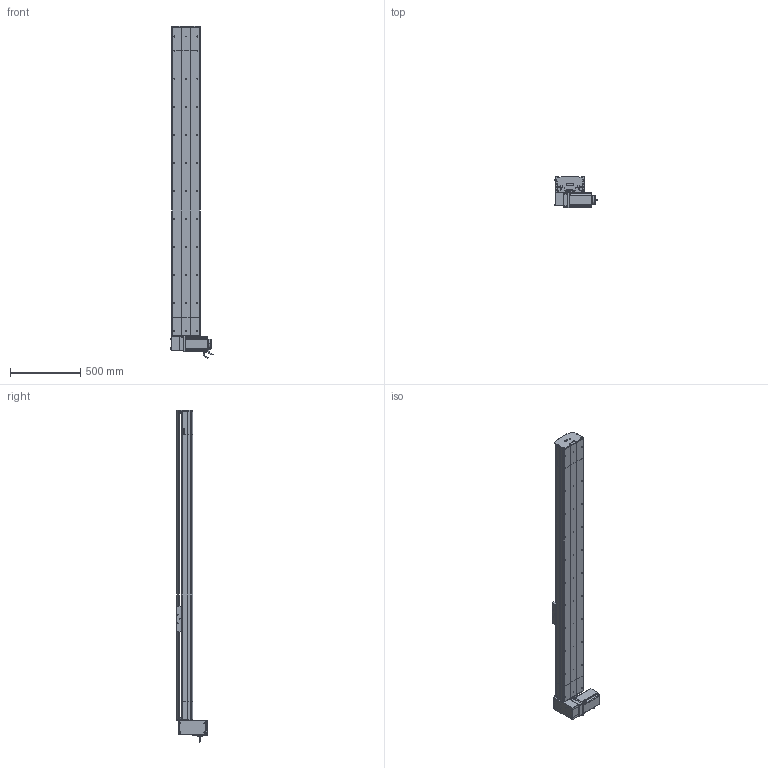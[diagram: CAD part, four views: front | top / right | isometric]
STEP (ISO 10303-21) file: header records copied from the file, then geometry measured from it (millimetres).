
FILE_DESCRIPTION (( 'STEP AP214' ), '1' );
FILE_NAME ('D20 TBH RU S1900.STEP', '2010-07-01T07:41:30', ( 'Conseil Régional Haute-Normandie' ), ( 'Conseil Régional Haute-Normandie' ), 'SwSTEP 2.0', 'SolidWorks 2010', '' );
FILE_SCHEMA (( 'AUTOMOTIVE_DESIGN' ));
Length unit declared in the file: millimetre
Products named in the file (40): Plaque racord D20LH_Default; vis M5 L70_Default; Renvoi RU D20_Default; D20 TBH RU S1900; Chariot D20B; chariot D20B_Default; cache D20_Default; cache arbre D20_Default; guide D20B; vis M5 L5_Default; couroie_Default; Course B L1900_Default; plaque de  bout head D20B RU_Default; poulie head D20_Default; couvercle head D20_Default; corp D20 S1900_Default; head RU_Default; rail + couroie  D20 S1900; couvercle D20 S1900_Default; Moteur motionking 110BLDC170A-640x; rail head D20; corpl head D20_Default; rail tail D20; vis M5 L8 90°_Default; vis M5 L25_Default; vis M5 L12_Default; tete d''axe poulie D20B; poulie tail D20_Default; corpl tail D20 +100_Default; tail D20+100_Default; couvercle tail D20_Default; Couroie tail D20_Default; plaque de  bout tail D20_Default; vis M8 L12_Default; clavette; Conecteur_Default; Conecteur2_Default; codeur 110BLDC170A-630x; corps 110BLDC170A-630x; avant 110BLDC170A-630x
Assembly tree (71 placements, depth 4):
  D20 TBH RU S1900
    Course B L1900_Default
      corp D20 S1900_Default
      couvercle D20 S1900_Default
      rail + couroie  D20 S1900
    head RU_Default
      cache arbre D20_Default
      vis M5 L25_Default  x2
      Moteur motionking 110BLDC170A-640x
        corps 110BLDC170A-630x
        codeur 110BLDC170A-630x
        clavette
        Conecteur2_Default
        Conecteur_Default
        avant 110BLDC170A-630x
      corpl head D20_Default
      vis M8 L12_Default  x4
      vis M5 L5_Default  x4
      vis M5 L12_Default  x10
      cache D20_Default  x2
      rail head D20
      vis M5 L70_Default  x4
      couvercle head D20_Default
      Renvoi RU D20_Default
      plaque de  bout head D20B RU_Default
      poulie head D20_Default
      Plaque racord D20LH_Default
      couroie_Default
    tail D20+100_Default
      vis M5 L12_Default  x4
      vis M5 L25_Default  x2
      poulie tail D20_Default
      corpl tail D20 +100_Default
      tete d''axe poulie D20B
      Couroie tail D20_Default
      plaque de  bout tail D20_Default
      rail tail D20
      vis M5 L8 90°_Default  x2
      couvercle tail D20_Default
    chariot D20B_Default
      Chariot D20B
      guide D20B  x2
      vis M5 L12_Default  x4
Bounding box: 304.2 x 223.2 x 2365 mm (x, y, z)
Volume: 19568541 mm3; surface area: 4704801.2 mm2
Topology: 95 solids, 95 shells, 2782 faces, 7062 edges, 4559 vertices
Faces by surface type: plane 1633, cylinder 825, bspline 136, cone 99, torus 89
Entity records: 88275 total; most frequent: CARTESIAN_POINT 28319, ORIENTED_EDGE 10780, DIRECTION 10171, EDGE_CURVE 5390, VERTEX_POINT 3545, VECTOR 3489, LINE 3489, AXIS2_PLACEMENT_3D 3341
